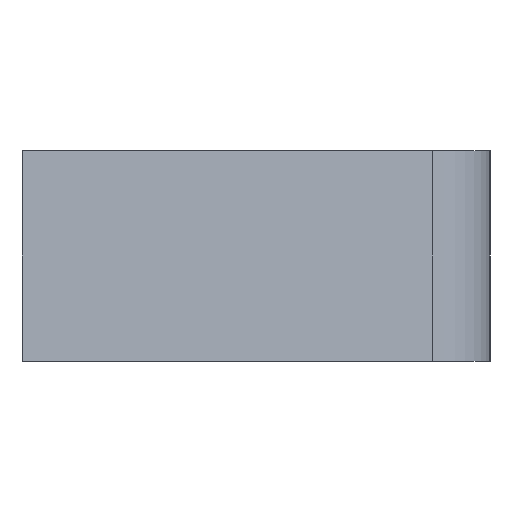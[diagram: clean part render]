
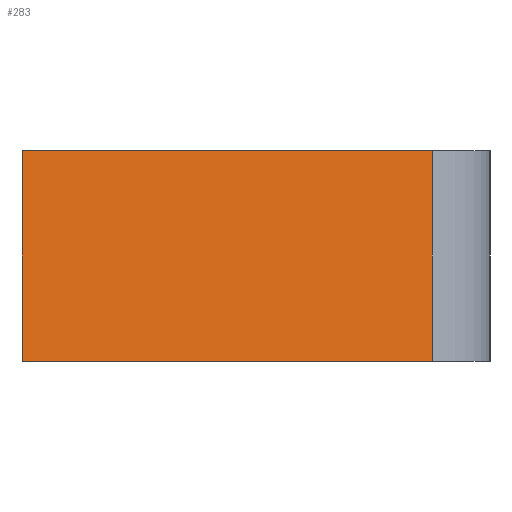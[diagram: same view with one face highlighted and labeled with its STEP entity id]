
A CAD part, left-side view. The second image highlights one B-rep face of the part: STEP entity #283.
In plain terms, the highlighted planar face has unit normal (-0.966, -0.258, 0).
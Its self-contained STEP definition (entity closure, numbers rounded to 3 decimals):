
#159 = VERTEX_POINT( '', #383 );
#177 = EDGE_CURVE( '', #263, #159, #402, .T. );
#195 = EDGE_CURVE( '', #265, #263, #422, .T. );
#233 = EDGE_CURVE( '', #265, #269, #462, .T. );
#239 = EDGE_CURVE( '', #269, #159, #468, .T. );
#263 = VERTEX_POINT( '', #497 );
#265 = VERTEX_POINT( '', #499 );
#269 = VERTEX_POINT( '', #503 );
#283 = ADVANCED_FACE( '', ( #520 ), #521, .T. );
#383 = CARTESIAN_POINT( '', ( -0.99, -26.288, -6.75 ) );
#402 = LINE( '', #660, #661 );
#422 = LINE( '', #690, #691 );
#462 = LINE( '', #741, #742 );
#468 = LINE( '', #752, #753 );
#497 = CARTESIAN_POINT( '', ( -0.99, -26.288, 6.75 ) );
#499 = CARTESIAN_POINT( '', ( -8., 0., 6.75 ) );
#503 = CARTESIAN_POINT( '', ( -8., 0., -6.75 ) );
#520 = FACE_OUTER_BOUND( '', #809, .T. );
#521 = PLANE( '', #810 );
#660 = CARTESIAN_POINT( '', ( -0.99, -26.288, 6.75 ) );
#661 = VECTOR( '', #961, 1. );
#690 = CARTESIAN_POINT( '', ( -8., 0., 6.75 ) );
#691 = VECTOR( '', #981, 1. );
#741 = CARTESIAN_POINT( '', ( -8., 0., 6.75 ) );
#742 = VECTOR( '', #1017, 1. );
#752 = CARTESIAN_POINT( '', ( -8., 0., -6.75 ) );
#753 = VECTOR( '', #1022, 1. );
#809 = EDGE_LOOP( '', ( #1095, #1096, #1097, #1098 ) );
#810 = AXIS2_PLACEMENT_3D( '', #1099, #1100, #1101 );
#961 = DIRECTION( '', ( 0., 0., -1. ) );
#981 = DIRECTION( '', ( 0.258, -0.966, 0. ) );
#1017 = DIRECTION( '', ( 0., 0., -1. ) );
#1022 = DIRECTION( '', ( 0.258, -0.966, 0. ) );
#1095 = ORIENTED_EDGE( '', *, *, #239, .T. );
#1096 = ORIENTED_EDGE( '', *, *, #177, .F. );
#1097 = ORIENTED_EDGE( '', *, *, #195, .F. );
#1098 = ORIENTED_EDGE( '', *, *, #233, .T. );
#1099 = CARTESIAN_POINT( '', ( -8., 0., 6.75 ) );
#1100 = DIRECTION( '', ( -0.966, -0.258, 0. ) );
#1101 = DIRECTION( '', ( -0.258, 0.966, 0. ) );
